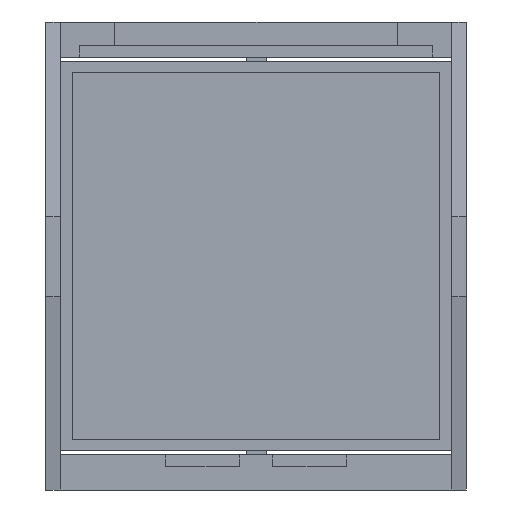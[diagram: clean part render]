
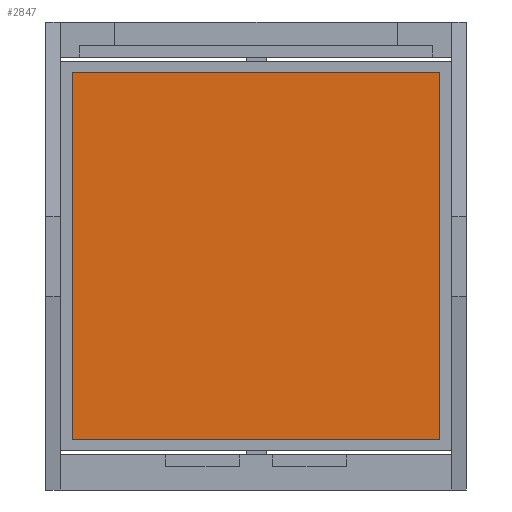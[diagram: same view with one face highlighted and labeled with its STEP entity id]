
A CAD part, front view. The second image highlights one B-rep face of the part: STEP entity #2847.
In plain terms, the highlighted planar face has unit normal (0, -1, 0).
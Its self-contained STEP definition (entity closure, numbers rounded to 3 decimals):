
#54 = CARTESIAN_POINT ( 'NONE',  ( -66.099, -0.416, 8.342 ) ) ;
#120 = PLANE ( 'NONE',  #7282 ) ;
#172 = EDGE_LOOP ( 'NONE', ( #4986, #7317, #1048, #1842 ) ) ;
#227 = VECTOR ( 'NONE', #6372, 1000. ) ;
#299 = VECTOR ( 'NONE', #8831, 1000. ) ;
#998 = LINE ( 'NONE', #1038, #9389 ) ;
#1038 = CARTESIAN_POINT ( 'NONE',  ( -66.099, -0.416, 8.342 ) ) ;
#1048 = ORIENTED_EDGE ( 'NONE', *, *, #6035, .F. ) ;
#1446 = LINE ( 'NONE', #54, #299 ) ;
#1569 = VERTEX_POINT ( 'NONE', #7331 ) ;
#1801 = CARTESIAN_POINT ( 'NONE',  ( -66.099, -0.416, 8.342 ) ) ;
#1842 = ORIENTED_EDGE ( 'NONE', *, *, #7825, .F. ) ;
#2003 = VERTEX_POINT ( 'NONE', #5635 ) ;
#2069 = LINE ( 'NONE', #5026, #3873 ) ;
#2362 = EDGE_CURVE ( 'NONE', #8679, #5017, #1446, .T. ) ;
#2847 = ADVANCED_FACE ( 'NONE', ( #8167 ), #120, .F. ) ;
#3873 = VECTOR ( 'NONE', #7971, 1000. ) ;
#4029 = DIRECTION ( 'NONE',  ( 0., 1., 0. ) ) ;
#4277 = LINE ( 'NONE', #7977, #227 ) ;
#4986 = ORIENTED_EDGE ( 'NONE', *, *, #2362, .F. ) ;
#5017 = VERTEX_POINT ( 'NONE', #7356 ) ;
#5026 = CARTESIAN_POINT ( 'NONE',  ( -66.099, -0.416, 43.342 ) ) ;
#5635 = CARTESIAN_POINT ( 'NONE',  ( -31.099, -0.416, 8.342 ) ) ;
#5888 = CARTESIAN_POINT ( 'NONE',  ( -66.099, -0.416, 43.342 ) ) ;
#6035 = EDGE_CURVE ( 'NONE', #1569, #2003, #4277, .T. ) ;
#6189 = DIRECTION ( 'NONE',  ( 0., 0., 1. ) ) ;
#6372 = DIRECTION ( 'NONE',  ( 0., 0., -1. ) ) ;
#6853 = DIRECTION ( 'NONE',  ( -1., 0., 0. ) ) ;
#7282 = AXIS2_PLACEMENT_3D ( 'NONE', #5888, #4029, #6189 ) ;
#7317 = ORIENTED_EDGE ( 'NONE', *, *, #9261, .F. ) ;
#7331 = CARTESIAN_POINT ( 'NONE',  ( -31.099, -0.416, 43.342 ) ) ;
#7356 = CARTESIAN_POINT ( 'NONE',  ( -66.099, -0.416, 43.342 ) ) ;
#7825 = EDGE_CURVE ( 'NONE', #5017, #1569, #2069, .T. ) ;
#7971 = DIRECTION ( 'NONE',  ( 1., 0., 0. ) ) ;
#7977 = CARTESIAN_POINT ( 'NONE',  ( -31.099, -0.416, 8.342 ) ) ;
#8167 = FACE_OUTER_BOUND ( 'NONE', #172, .T. ) ;
#8679 = VERTEX_POINT ( 'NONE', #1801 ) ;
#8831 = DIRECTION ( 'NONE',  ( 0., 0., 1. ) ) ;
#9261 = EDGE_CURVE ( 'NONE', #2003, #8679, #998, .T. ) ;
#9389 = VECTOR ( 'NONE', #6853, 1000. ) ;
